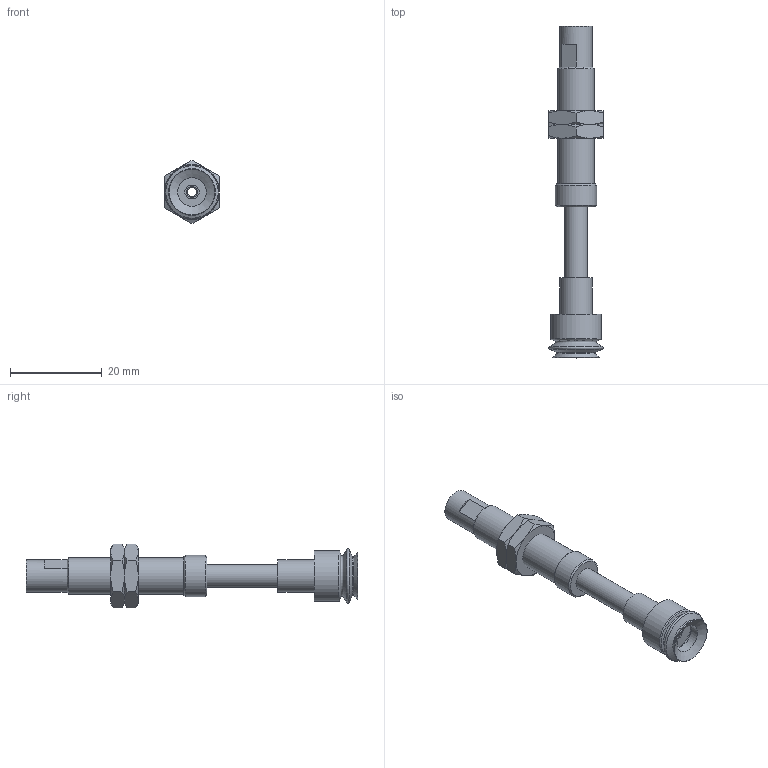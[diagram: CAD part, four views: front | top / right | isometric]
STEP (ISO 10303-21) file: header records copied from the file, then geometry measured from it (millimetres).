
FILE_DESCRIPTION(('STEP AP203'),'1');
FILE_NAME('-PE.stp','2025-04-25T02:31:08',(' '),(' '),'Spatial InterOp 3D',' ',' ');
FILE_SCHEMA(('CONFIG_CONTROL_DESIGN'));
Length unit declared in the file: millimetre
Products named in the file (8): BNABPJTS-10-15-※-PE; NUT; BODY; STOPPER; ZIG; TN-PF-15-M5; BPJG-10-_
Assembly tree (7 placements, depth 2):
  BNABPJTS-10-15-※-PE
    NUT
    NUT
    BODY
    STOPPER
    ZIG
    TN-PF-15-M5
    BPJG-10-_
Bounding box: 12 x 72.5 x 13.86 mm (x, y, z)
Volume: 3221.5 mm3; surface area: 4817.1 mm2
Topology: 7 solids, 7 shells, 121 faces, 254 edges, 157 vertices
Faces by surface type: plane 46, cone 44, cylinder 24, torus 7
Full cylindrical faces by diameter (mm): 2 x1, 2.5 x1, 3.4 x1, 3.5 x1, 4 x3, 4.2 x2, 4.6 x1, 5 x3, 5.2 x1, 6.266 x1, 7 x2, 7.25 x2, 7.8 x1, 8 x2, 9 x1, 11 x1
Entity records: 3286 total; most frequent: CARTESIAN_POINT 613, DIRECTION 494, ORIENTED_EDGE 370, AXIS2_PLACEMENT_3D 228, EDGE_LOOP 196, EDGE_CURVE 185, FACE_OUTER_BOUND 152, VERTEX_POINT 139
